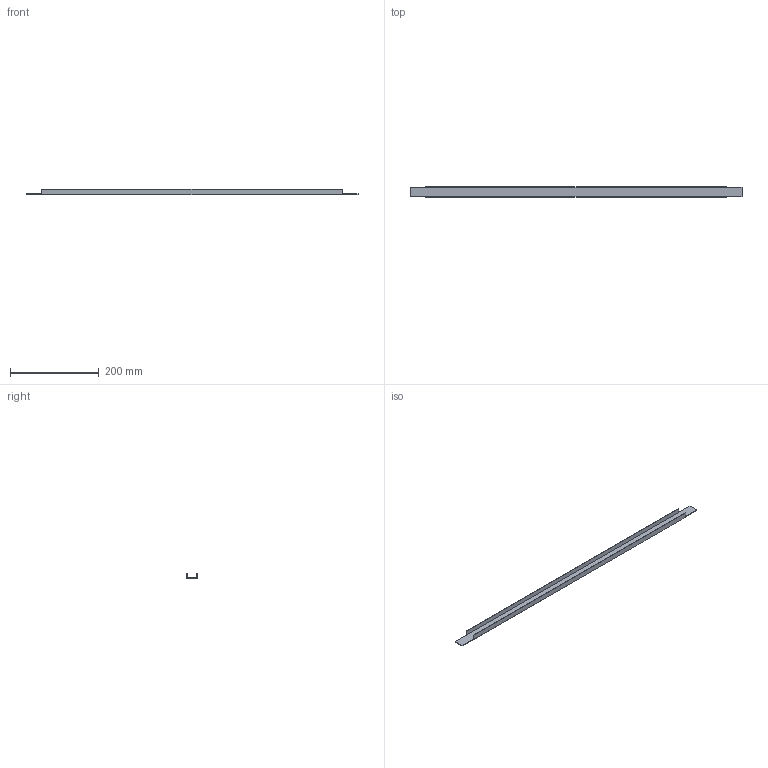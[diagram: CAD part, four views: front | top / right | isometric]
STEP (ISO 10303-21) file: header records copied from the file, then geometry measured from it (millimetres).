
FILE_DESCRIPTION( ( 'STEP AP214' ), '1' );
FILE_NAME( 'p:/temp/worker_120/temp/exporttempdir_2172_209_kZQNd/format_0/DHP080(0).stp', '2021-03-15T15:16:37', ( 'License CC BY-ND 4.0' ), ( 'CADENAS' ), ' ', 'PARTsolutions', ' ' );
FILE_SCHEMA( ( 'AUTOMOTIVE_DESIGN { 1 0 10303 214 1 1 1 1 }' ) );
Length unit declared in the file: millimetre
Products named in the file (1): _DHP080(0)
Bounding box: 748 x 24.5 x 12 mm (x, y, z)
Volume: 48459 mm3; surface area: 66992.5 mm2
Topology: 1 solids, 1 shells, 18 faces, 44 edges, 28 vertices
Faces by surface type: plane 18
Entity records: 676 total; most frequent: CARTESIAN_POINT 91, ORIENTED_EDGE 88, DIRECTION 82, EDGE_CURVE 44, LINE 44, VECTOR 44, VERTEX_POINT 28, AXIS2_PLACEMENT_3D 19
